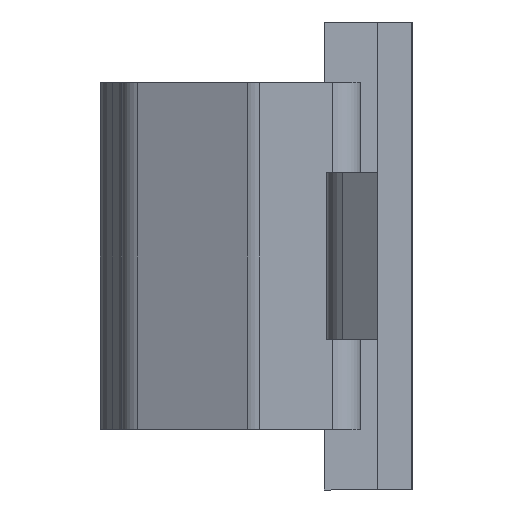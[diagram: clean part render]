
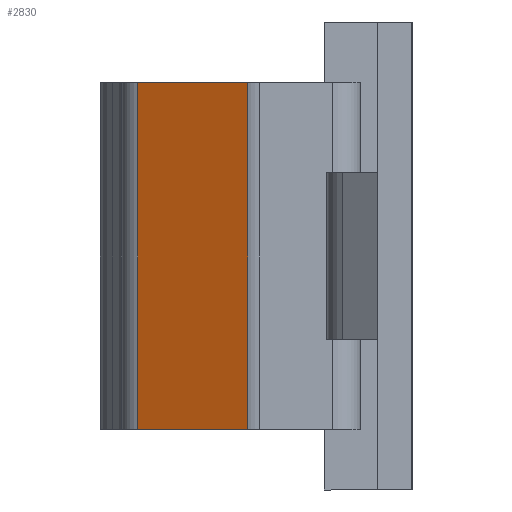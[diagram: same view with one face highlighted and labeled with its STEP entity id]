
A CAD part, left-side view. The second image highlights one B-rep face of the part: STEP entity #2830.
In plain terms, the highlighted planar face has unit normal (-0.906, 0.423, 0).
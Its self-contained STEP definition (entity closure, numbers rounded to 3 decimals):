
#117 = CARTESIAN_POINT ( 'NONE',  ( -43.426, 2.895, 6.1 ) ) ;
#467 = CARTESIAN_POINT ( 'NONE',  ( -43.426, 2.895, 6.1 ) ) ;
#672 = EDGE_CURVE ( 'NONE', #2423, #1365, #1986, .T. ) ;
#689 = EDGE_CURVE ( 'NONE', #1865, #2423, #2658, .T. ) ;
#699 = EDGE_CURVE ( 'NONE', #2274, #1865, #1908, .T. ) ;
#827 = CARTESIAN_POINT ( 'NONE',  ( -43.426, 2.895, -6.1 ) ) ;
#874 = VECTOR ( 'NONE', #1092, 1000. ) ;
#876 = EDGE_LOOP ( 'NONE', ( #2031, #2241, #2337, #2020 ) ) ;
#905 = CARTESIAN_POINT ( 'NONE',  ( -41.619, 6.77, 92.589 ) ) ;
#1008 = CARTESIAN_POINT ( 'NONE',  ( -41.619, 6.77, 6.1 ) ) ;
#1092 = DIRECTION ( 'NONE',  ( 0., 0., -1. ) ) ;
#1163 = CARTESIAN_POINT ( 'NONE',  ( -41.619, 6.77, -6.1 ) ) ;
#1233 = VECTOR ( 'NONE', #3068, 1000. ) ;
#1365 = VERTEX_POINT ( 'NONE', #1163 ) ;
#1388 = AXIS2_PLACEMENT_3D ( 'NONE', #2147, #2131, #2125 ) ;
#1452 = EDGE_CURVE ( 'NONE', #2274, #1365, #2873, .T. ) ;
#1825 = DIRECTION ( 'NONE',  ( -0.423, -0.906, 0. ) ) ;
#1865 = VERTEX_POINT ( 'NONE', #117 ) ;
#1908 = LINE ( 'NONE', #467, #3188 ) ;
#1986 = LINE ( 'NONE', #3155, #2572 ) ;
#2020 = ORIENTED_EDGE ( 'NONE', *, *, #1452, .T. ) ;
#2031 = ORIENTED_EDGE ( 'NONE', *, *, #672, .F. ) ;
#2125 = DIRECTION ( 'NONE',  ( -0.423, -0.906, 0. ) ) ;
#2131 = DIRECTION ( 'NONE',  ( -0.906, 0.423, 0. ) ) ;
#2135 = PLANE ( 'NONE',  #1388 ) ;
#2147 = CARTESIAN_POINT ( 'NONE',  ( -43.426, 2.895, 92.589 ) ) ;
#2241 = ORIENTED_EDGE ( 'NONE', *, *, #689, .F. ) ;
#2274 = VERTEX_POINT ( 'NONE', #1008 ) ;
#2337 = ORIENTED_EDGE ( 'NONE', *, *, #699, .F. ) ;
#2423 = VERTEX_POINT ( 'NONE', #827 ) ;
#2572 = VECTOR ( 'NONE', #3106, 1000. ) ;
#2589 = FACE_OUTER_BOUND ( 'NONE', #876, .T. ) ;
#2658 = LINE ( 'NONE', #3056, #1233 ) ;
#2830 = ADVANCED_FACE ( 'NONE', ( #2589 ), #2135, .T. ) ;
#2873 = LINE ( 'NONE', #905, #874 ) ;
#3056 = CARTESIAN_POINT ( 'NONE',  ( -43.426, 2.895, 92.589 ) ) ;
#3068 = DIRECTION ( 'NONE',  ( 0., 0., -1. ) ) ;
#3106 = DIRECTION ( 'NONE',  ( 0.423, 0.906, 0. ) ) ;
#3155 = CARTESIAN_POINT ( 'NONE',  ( -43.426, 2.895, -6.1 ) ) ;
#3188 = VECTOR ( 'NONE', #1825, 1000. ) ;
